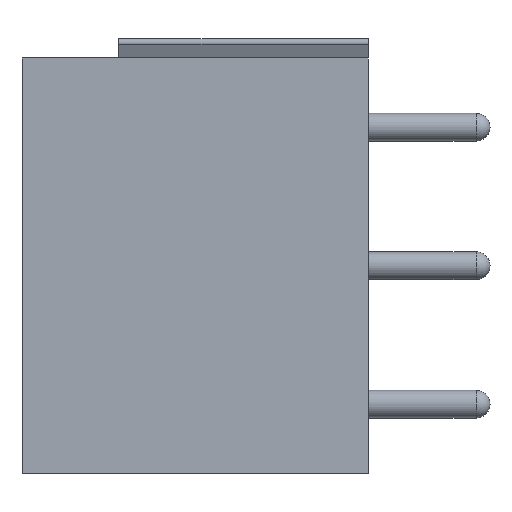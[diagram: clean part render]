
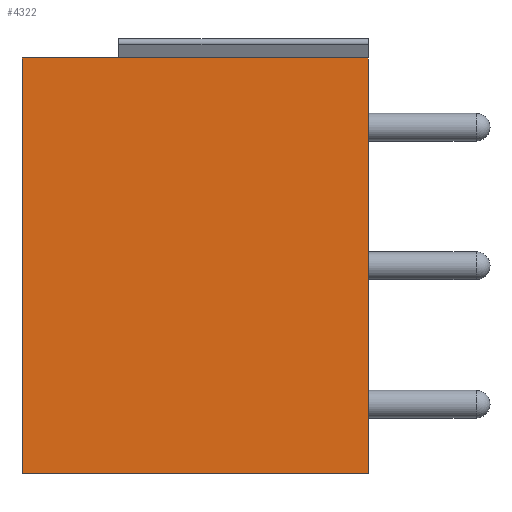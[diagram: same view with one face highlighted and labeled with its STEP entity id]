
A CAD part, left-side view. The second image highlights one B-rep face of the part: STEP entity #4322.
In plain terms, the highlighted planar face has unit normal (-1, 0, 0).
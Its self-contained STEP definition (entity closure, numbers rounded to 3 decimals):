
#124 = ORIENTED_EDGE ( 'NONE', *, *, #2229, .F. ) ;
#309 = DIRECTION ( 'NONE',  ( -1., 0., 0. ) ) ;
#497 = ORIENTED_EDGE ( 'NONE', *, *, #6202, .F. ) ;
#722 = CARTESIAN_POINT ( 'NONE',  ( 0., 0., 0. ) ) ;
#866 = FACE_OUTER_BOUND ( 'NONE', #6473, .T. ) ;
#893 = ORIENTED_EDGE ( 'NONE', *, *, #2522, .T. ) ;
#1064 = VERTEX_POINT ( 'NONE', #1939 ) ;
#1151 = LINE ( 'NONE', #2144, #2628 ) ;
#1282 = CARTESIAN_POINT ( 'NONE',  ( 0., 0., 0. ) ) ;
#1425 = CARTESIAN_POINT ( 'NONE',  ( 0., 12.5, 0. ) ) ;
#1434 = DIRECTION ( 'NONE',  ( 0., -1., 0. ) ) ;
#1464 = CARTESIAN_POINT ( 'NONE',  ( 0., 0., -15. ) ) ;
#1504 = CARTESIAN_POINT ( 'NONE',  ( 0., 12.5, -15. ) ) ;
#1929 = VECTOR ( 'NONE', #1434, 1000. ) ;
#1939 = CARTESIAN_POINT ( 'NONE',  ( 0., 12.5, -15. ) ) ;
#2029 = VECTOR ( 'NONE', #3468, 1000. ) ;
#2144 = CARTESIAN_POINT ( 'NONE',  ( 0., 12.5, 0. ) ) ;
#2229 = EDGE_CURVE ( 'NONE', #2824, #5613, #5573, .T. ) ;
#2335 = PLANE ( 'NONE',  #3526 ) ;
#2429 = ORIENTED_EDGE ( 'NONE', *, *, #6896, .F. ) ;
#2522 = EDGE_CURVE ( 'NONE', #1064, #5613, #5837, .T. ) ;
#2628 = VECTOR ( 'NONE', #4260, 1000. ) ;
#2824 = VERTEX_POINT ( 'NONE', #722 ) ;
#3468 = DIRECTION ( 'NONE',  ( 0., 0., 1. ) ) ;
#3526 = AXIS2_PLACEMENT_3D ( 'NONE', #1425, #309, #6609 ) ;
#3713 = VERTEX_POINT ( 'NONE', #5284 ) ;
#4260 = DIRECTION ( 'NONE',  ( 0., -1., 0. ) ) ;
#4322 = ADVANCED_FACE ( 'NONE', ( #866 ), #2335, .T. ) ;
#5284 = CARTESIAN_POINT ( 'NONE',  ( 0., 12.5, 0. ) ) ;
#5573 = LINE ( 'NONE', #1282, #5597 ) ;
#5597 = VECTOR ( 'NONE', #6667, 1000. ) ;
#5613 = VERTEX_POINT ( 'NONE', #1464 ) ;
#5837 = LINE ( 'NONE', #1504, #1929 ) ;
#6173 = LINE ( 'NONE', #6761, #2029 ) ;
#6202 = EDGE_CURVE ( 'NONE', #1064, #3713, #6173, .T. ) ;
#6473 = EDGE_LOOP ( 'NONE', ( #2429, #497, #893, #124 ) ) ;
#6609 = DIRECTION ( 'NONE',  ( 0., 0., 1. ) ) ;
#6667 = DIRECTION ( 'NONE',  ( 0., 0., -1. ) ) ;
#6761 = CARTESIAN_POINT ( 'NONE',  ( 0., 12.5, -15. ) ) ;
#6896 = EDGE_CURVE ( 'NONE', #3713, #2824, #1151, .T. ) ;
